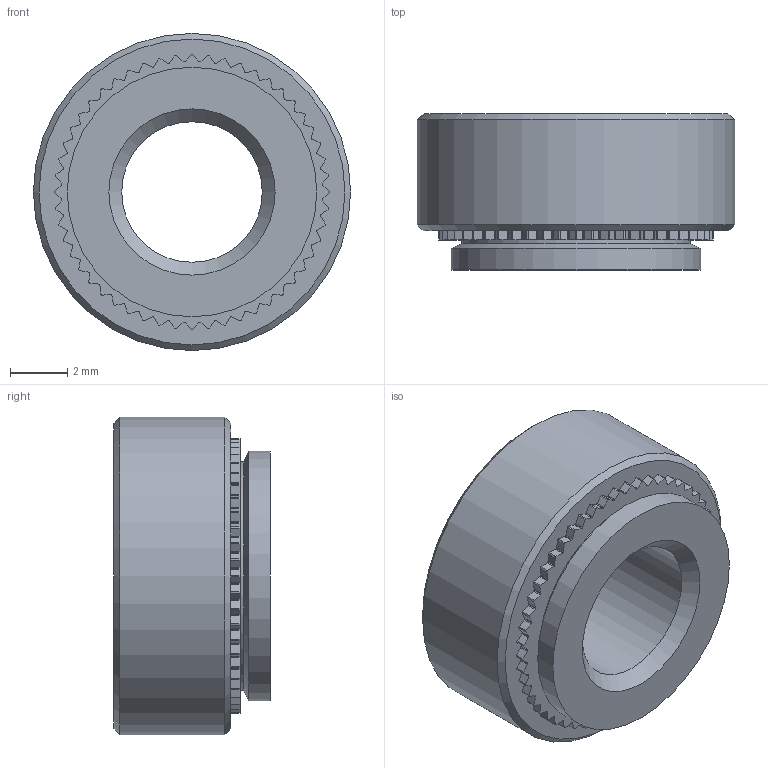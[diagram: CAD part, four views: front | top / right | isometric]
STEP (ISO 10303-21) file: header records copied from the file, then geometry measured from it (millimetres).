
FILE_DESCRIPTION(/* description */ (''),/* implementation_level */ '2;1');
FILE_NAME(/* name */ 'C:\Users\keval.kumar\Desktop\Fastit\Clinch nut\M6\Clinch Nut_M6_1.stp',/* time_stamp */ '2024-03-14T09:41:20+05:00',/* author */ ('keval.kumar'),/* organization */ (''),/* preprocessor_version */ 'ST-DEVELOPER v18.1',/* originating_system */ 'Autodesk Inventor 2022',/* authorisation */ '');
FILE_SCHEMA (('AUTOMOTIVE_DESIGN { 1 0 10303 214 3 1 1 }'));
Length unit declared in the file: millimetre
Products named in the file (1): Clinch Nut_M6_1
Bounding box: 11.1 x 5.46 x 11.1 mm (x, y, z)
Volume: 370 mm3; surface area: 423.1 mm2
Topology: 1 solids, 1 shells, 325 faces, 960 edges, 639 vertices
Faces by surface type: cylinder 212, plane 108, cone 5
Full cylindrical faces by diameter (mm): 4.917 x1, 8 x1, 8.733 x1, 11.1 x1
Entity records: 11088 total; most frequent: DIRECTION 2043, CARTESIAN_POINT 1925, ORIENTED_EDGE 1920, EDGE_CURVE 960, AXIS2_PLACEMENT_3D 757, VERTEX_POINT 639, LINE 529, VECTOR 529
